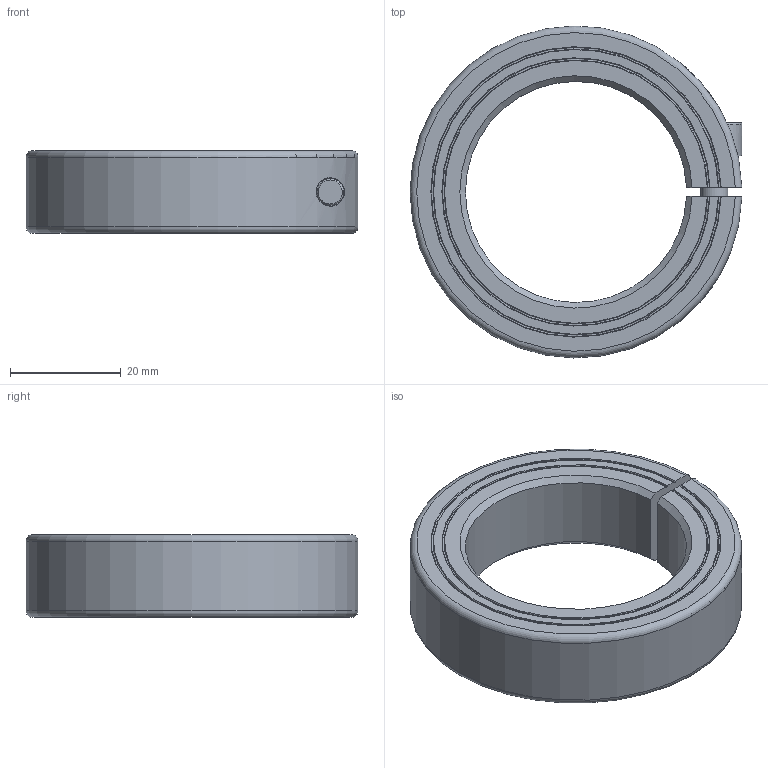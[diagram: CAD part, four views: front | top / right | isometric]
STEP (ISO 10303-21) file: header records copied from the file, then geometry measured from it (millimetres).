
FILE_DESCRIPTION((''),'2;1');
FILE_NAME('MCL-40-F','2016-09-08T',('SYSTEM'),(''),'PRO/ENGINEER BY PARAMETRIC TECHNOLOGY CORPORATION, 2015110','PRO/ENGINEER BY PARAMETRIC TECHNOLOGY CORPORATION, 2015110','');
FILE_SCHEMA(('AUTOMOTIVE_DESIGN { 1 0 10303 214 1 1 1 1 }'));
Length unit declared in the file: inch
Products named in the file (1): MCL-40-F
Bounding box: 59.99 x 59.99 x 15 mm (x, y, z)
Volume: 22449.5 mm3; surface area: 8841.2 mm2
Topology: 1 solids, 1 shells, 43 faces, 111 edges, 74 vertices
Faces by surface type: plane 18, cylinder 11, cone 10, torus 4
Entity records: 1816 total; most frequent: CARTESIAN_POINT 395, ORIENTED_EDGE 222, DIRECTION 217, EDGE_CURVE 111, AXIS2_PLACEMENT_3D 86, VERTEX_POINT 74, EDGE_LOOP 49, VECTOR 45
